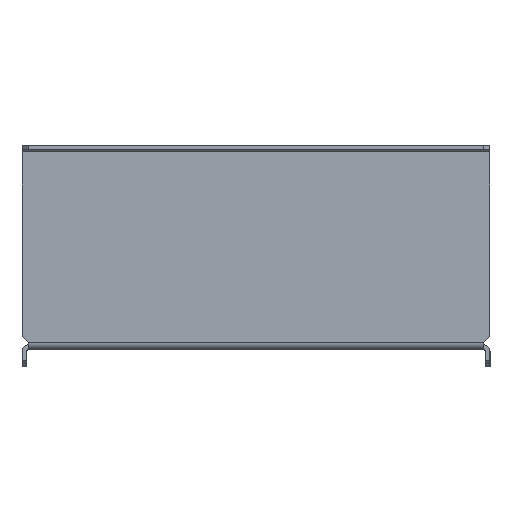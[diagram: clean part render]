
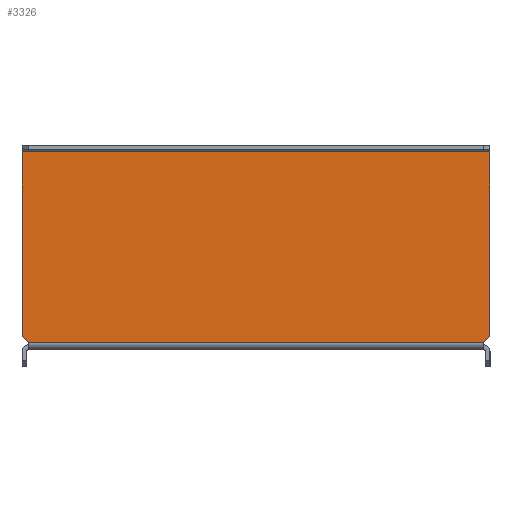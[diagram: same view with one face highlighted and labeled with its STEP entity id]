
A CAD part, left-side view. The second image highlights one B-rep face of the part: STEP entity #3326.
In plain terms, the highlighted planar face has unit normal (-1, 0, 0).
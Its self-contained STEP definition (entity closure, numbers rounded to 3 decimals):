
#2081=CARTESIAN_POINT(' ',(-159.,74.5,61.4));
#2086=DIRECTION(' ',(0.,-1.,0.));
#2091=VECTOR(' ',#2086,1.);
#2096=LINE('',#2081,#2091);
#2101=CARTESIAN_POINT(' ',(-159.,74.5,61.4));
#2102=VERTEX_POINT(' ',#2101);
#2106=CARTESIAN_POINT(' ',(-159.,-74.5,61.4));
#2107=VERTEX_POINT(' ',#2106);
#2111=EDGE_CURVE(' ',#2102,#2107,#2096,.T.);
#3046=DIRECTION(' ',(-1.,0.,0.));
#3051=CARTESIAN_POINT(' ',(-159.,-74.5,61.4));
#3056=DIRECTION(' ',(0.,1.,0.));
#3061=AXIS2_PLACEMENT_3D(' ',#3051,#3046,#3056);
#3066=PLANE('NONE',#3061);
#3071=CARTESIAN_POINT(' ',(-159.,-72.5,0.6));
#3076=DIRECTION(' ',(0.,1.,0.));
#3081=VECTOR(' ',#3076,1.);
#3086=LINE('',#3071,#3081);
#3091=CARTESIAN_POINT(' ',(-159.,-72.5,0.6));
#3092=VERTEX_POINT(' ',#3091);
#3096=CARTESIAN_POINT(' ',(-159.,-72.4,0.6));
#3097=VERTEX_POINT(' ',#3096);
#3101=EDGE_CURVE(' ',#3092,#3097,#3086,.T.);
#3106=ORIENTED_EDGE(' ',*,*,#3101,.F.);
#3111=CARTESIAN_POINT(' ',(-159.,-72.5,0.6));
#3116=DIRECTION(' ',(0.,-0.707,0.707));
#3121=VECTOR(' ',#3116,1.);
#3126=LINE('',#3111,#3121);
#3131=CARTESIAN_POINT(' ',(-159.,-74.5,2.6));
#3132=VERTEX_POINT(' ',#3131);
#3136=EDGE_CURVE(' ',#3092,#3132,#3126,.T.);
#3141=ORIENTED_EDGE(' ',*,*,#3136,.T.);
#3146=CARTESIAN_POINT(' ',(-159.,-74.5,2.6));
#3151=DIRECTION(' ',(0.,0.,1.));
#3156=VECTOR(' ',#3151,1.);
#3161=LINE('',#3146,#3156);
#3166=EDGE_CURVE(' ',#3132,#2107,#3161,.T.);
#3171=ORIENTED_EDGE(' ',*,*,#3166,.T.);
#3176=ORIENTED_EDGE(' ',*,*,#2111,.F.);
#3181=CARTESIAN_POINT(' ',(-159.,74.5,61.4));
#3186=DIRECTION(' ',(0.,0.,-1.));
#3191=VECTOR(' ',#3186,1.);
#3196=LINE('',#3181,#3191);
#3201=CARTESIAN_POINT(' ',(-159.,74.5,2.6));
#3202=VERTEX_POINT(' ',#3201);
#3206=EDGE_CURVE(' ',#2102,#3202,#3196,.T.);
#3211=ORIENTED_EDGE(' ',*,*,#3206,.T.);
#3216=CARTESIAN_POINT(' ',(-159.,74.5,2.6));
#3221=DIRECTION(' ',(0.,-0.707,-0.707));
#3226=VECTOR(' ',#3221,1.);
#3231=LINE('',#3216,#3226);
#3236=CARTESIAN_POINT(' ',(-159.,72.5,0.6));
#3237=VERTEX_POINT(' ',#3236);
#3241=EDGE_CURVE(' ',#3202,#3237,#3231,.T.);
#3246=ORIENTED_EDGE(' ',*,*,#3241,.T.);
#3251=CARTESIAN_POINT(' ',(-159.,72.4,0.6));
#3256=DIRECTION(' ',(0.,1.,0.));
#3261=VECTOR(' ',#3256,1.);
#3266=LINE('',#3251,#3261);
#3271=CARTESIAN_POINT(' ',(-159.,72.4,0.6));
#3272=VERTEX_POINT(' ',#3271);
#3276=EDGE_CURVE(' ',#3272,#3237,#3266,.T.);
#3281=ORIENTED_EDGE(' ',*,*,#3276,.F.);
#3286=CARTESIAN_POINT(' ',(-159.,-72.4,0.6));
#3291=DIRECTION(' ',(0.,1.,0.));
#3296=VECTOR(' ',#3291,1.);
#3301=LINE('',#3286,#3296);
#3306=EDGE_CURVE(' ',#3097,#3272,#3301,.T.);
#3311=ORIENTED_EDGE(' ',*,*,#3306,.F.);
#3316=EDGE_LOOP(' ',(#3106,#3141,#3171,#3176,#3211,#3246,#3281,#3311));
#3321=FACE_OUTER_BOUND(' ',#3316,.T.);
#3326=ADVANCED_FACE('NONE',(#3321),#3066,.T.);
